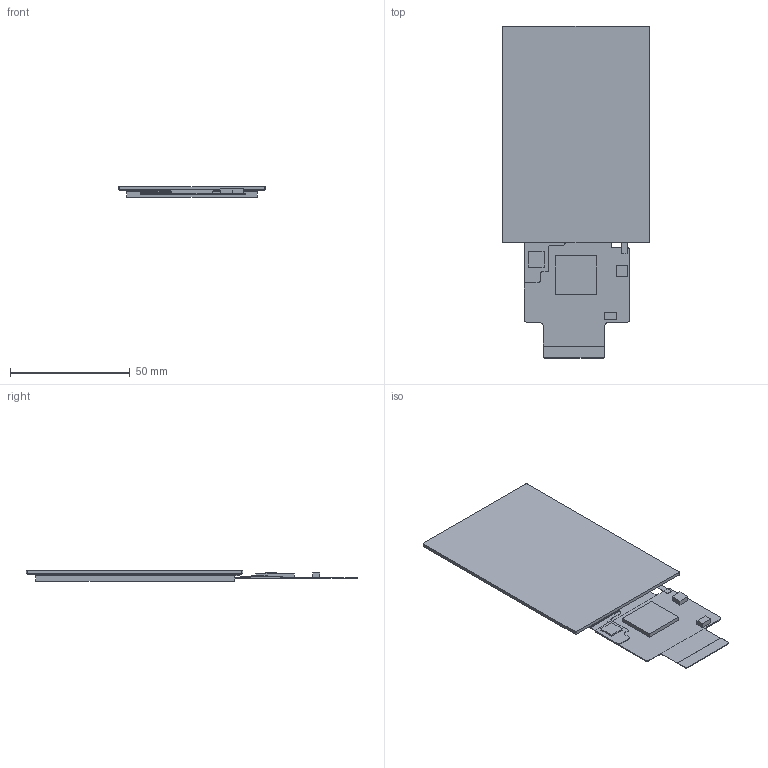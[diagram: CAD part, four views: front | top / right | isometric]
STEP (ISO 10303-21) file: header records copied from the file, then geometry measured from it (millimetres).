
FILE_DESCRIPTION((''),'2;1');
FILE_NAME('3D-DMG48320F035-01WTC-211206','2021-12-06T',('Administrator'),(''),'PRO/ENGINEER BY PARAMETRIC TECHNOLOGY CORPORATION, 2008380','PRO/ENGINEER BY PARAMETRIC TECHNOLOGY CORPORATION, 2008380','');
FILE_SCHEMA(('CONFIG_CONTROL_DESIGN'));
Length unit declared in the file: millimetre
Products named in the file (1): 3D-DMG48320F035-01WTC-211206
Bounding box: 61.3 x 138.54 x 4.45 mm (x, y, z)
Volume: 22850.4 mm3; surface area: 16732.9 mm2
Topology: 1 solids, 1 shells, 123 faces, 1758 edges, 2072 vertices
Faces by surface type: plane 93, cylinder 30
Entity records: 12333 total; most frequent: CARTESIAN_POINT 2139, DIRECTION 2081, VECTOR 1675, LINE 1675, TRIMMED_CURVE 1402, COMPOSITE_CURVE_SEGMENT 969, ORIENTED_EDGE 712, EDGE_CURVE 356
